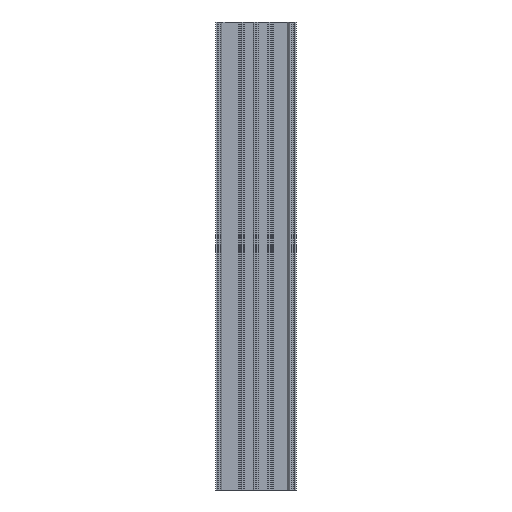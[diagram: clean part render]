
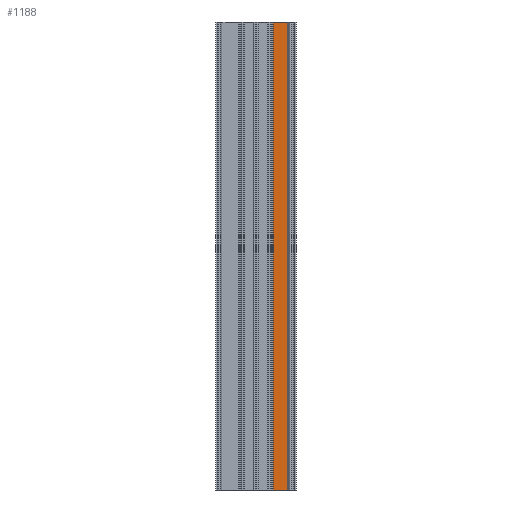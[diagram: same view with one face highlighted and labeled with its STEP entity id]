
A CAD part, front view. The second image highlights one B-rep face of the part: STEP entity #1188.
In plain terms, the highlighted planar face has unit normal (0, -1, 0).
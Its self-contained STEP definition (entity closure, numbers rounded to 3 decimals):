
#1167 = EDGE_CURVE ( 'NONE', #1309, #1197, #2655, .T. ) ;
#1175 = ORIENTED_EDGE ( 'NONE', *, *, #1251, .F. ) ;
#1176 = VERTEX_POINT ( 'NONE', #2679 ) ;
#1188 = ADVANCED_FACE ( 'NONE', ( #2790 ), #2813, .F. ) ;
#1197 = VERTEX_POINT ( 'NONE', #2844 ) ;
#1206 = EDGE_LOOP ( 'NONE', ( #1250, #1175, #1233, #1365 ) ) ;
#1233 = ORIENTED_EDGE ( 'NONE', *, *, #1360, .F. ) ;
#1248 = VERTEX_POINT ( 'NONE', #2786 ) ;
#1250 = ORIENTED_EDGE ( 'NONE', *, *, #1252, .T. ) ;
#1251 = EDGE_CURVE ( 'NONE', #1248, #1176, #2903, .T. ) ;
#1252 = EDGE_CURVE ( 'NONE', #1197, #1176, #2896, .T. ) ;
#1309 = VERTEX_POINT ( 'NONE', #2936 ) ;
#1360 = EDGE_CURVE ( 'NONE', #1309, #1248, #2972, .T. ) ;
#1365 = ORIENTED_EDGE ( 'NONE', *, *, #1167, .T. ) ;
#2649 = DIRECTION ( 'NONE',  ( 0., 0., 1. ) ) ;
#2650 = VECTOR ( 'NONE', #2649, 1000. ) ;
#2651 = CARTESIAN_POINT ( 'NONE',  ( 34.6, 7., -500. ) ) ;
#2655 = LINE ( 'NONE', #2651, #2650 ) ;
#2679 = CARTESIAN_POINT ( 'NONE',  ( 18.4, 7., 0. ) ) ;
#2703 = CARTESIAN_POINT ( 'NONE',  ( 18.4, 7., -500. ) ) ;
#2706 = DIRECTION ( 'NONE',  ( 0., 1., 0. ) ) ;
#2708 = AXIS2_PLACEMENT_3D ( 'NONE', #2703, #2706, #2839 ) ;
#2786 = CARTESIAN_POINT ( 'NONE',  ( 18.4, 7., -500. ) ) ;
#2790 = FACE_OUTER_BOUND ( 'NONE', #1206, .T. ) ;
#2813 = PLANE ( 'NONE',  #2708 ) ;
#2839 = DIRECTION ( 'NONE',  ( 0., 0., 1. ) ) ;
#2844 = CARTESIAN_POINT ( 'NONE',  ( 34.6, 7., 0. ) ) ;
#2891 = DIRECTION ( 'NONE',  ( -1., 0., 0. ) ) ;
#2892 = VECTOR ( 'NONE', #2891, 1000. ) ;
#2893 = CARTESIAN_POINT ( 'NONE',  ( 18.4, 7., 0. ) ) ;
#2896 = LINE ( 'NONE', #2893, #2892 ) ;
#2897 = DIRECTION ( 'NONE',  ( 0., 0., 1. ) ) ;
#2898 = VECTOR ( 'NONE', #2897, 1000. ) ;
#2902 = CARTESIAN_POINT ( 'NONE',  ( 18.4, 7., -500. ) ) ;
#2903 = LINE ( 'NONE', #2902, #2898 ) ;
#2936 = CARTESIAN_POINT ( 'NONE',  ( 34.6, 7., -500. ) ) ;
#2969 = DIRECTION ( 'NONE',  ( -1., 0., 0. ) ) ;
#2970 = VECTOR ( 'NONE', #2969, 1000. ) ;
#2971 = CARTESIAN_POINT ( 'NONE',  ( 18.4, 7., -500. ) ) ;
#2972 = LINE ( 'NONE', #2971, #2970 ) ;
